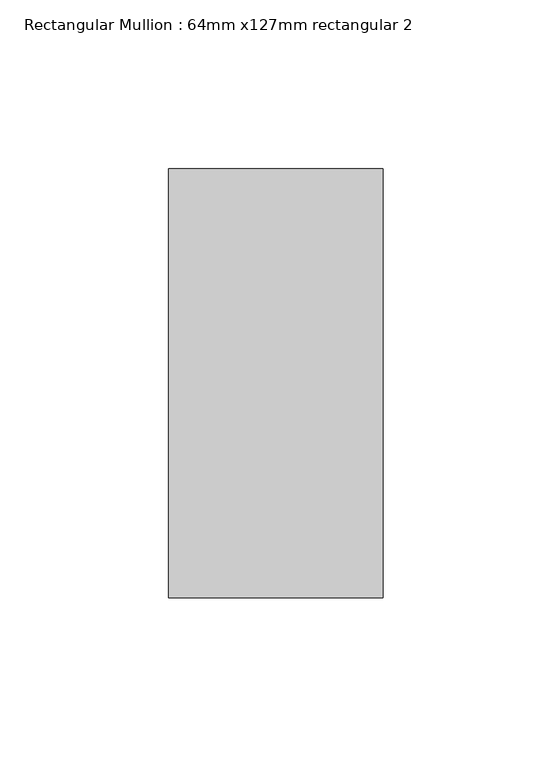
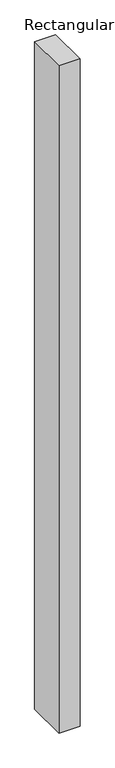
"""IFC4 building model written with IfcOpenShell, lengths in millimetres: member geometry, Rectangular Mullion : 64mm x127mm rectangular 2."""

import ifcopenshell
import ifcopenshell.guid

model = None  # the IFC model being written
_history = None  # IfcOwnerHistory: only IFC2X3 demands one
_inside = {}  # id of a spatial element -> (the spatial element, [elements in it])
_under = {}  # id of a project, library or spatial element -> (it, [spatial elements below it])
_declared = {}  # id of a project -> (the project, [libraries it declares])
_typed = {}  # id of a type object -> (the type object, [elements of that type])
_made_of = {}  # id of a material, layer set ... -> (it, [elements and type objects made of it])


def new_model(schema):
    """Start an empty IFC model of exactly this schema.

    Asked for "IFC4X3", IfcOpenShell would pick the latest addendum, in which some entities
    have other attributes; the version numbers below select the first issue.
    IFC2X3 requires an IfcOwnerHistory on every rooted entity: one is made here for all.
    """
    global model, _history
    if schema == "IFC4X3":
        model = ifcopenshell.file(schema_version=(4, 3, 0, 0))
    else:
        model = ifcopenshell.file(schema=schema)
    _inside.clear()
    _under.clear()
    _declared.clear()
    _typed.clear()
    _made_of.clear()
    _history = None
    if model.schema == "IFC2X3":
        org = make("IfcOrganization", Name="unknown")
        user = make(
            "IfcPersonAndOrganization",
            ThePerson=make("IfcPerson", FamilyName="unknown"),
            TheOrganization=org,
        )
        app = make(
            "IfcApplication",
            ApplicationDeveloper=org,
            Version="unknown",
            ApplicationFullName="unknown",
            ApplicationIdentifier="unknown",
        )
        _history = make(
            "IfcOwnerHistory",
            OwningUser=user,
            OwningApplication=app,
            ChangeAction="ADDED",
            CreationDate=0,
        )
    return model


def make(cls, **values):
    """One entity of the class cls with the attributes given. An attribute that is None is left unset."""
    return model.create_entity(
        cls, **{name: value for name, value in values.items() if value is not None}
    )


def rooted(cls, **values):
    """An entity with a GlobalId (a new one), such as an element, a storey or a relation."""
    return make(cls, GlobalId=ifcopenshell.guid.new(), OwnerHistory=_history, **values)


def si_unit(unit_type, name, prefix=None):
    """IfcSIUnit, for example si_unit("LENGTHUNIT", "METRE", prefix="MILLI")."""
    return make("IfcSIUnit", UnitType=unit_type, Prefix=prefix, Name=name)


def assignment(units):
    """IfcUnitAssignment: the units of a project."""
    return None if units is None else make("IfcUnitAssignment", Units=units)


def point(xyz):
    """IfcCartesianPoint."""
    return None if xyz is None else make("IfcCartesianPoint", Coordinates=xyz)


def direction(xyz):
    """IfcDirection."""
    return None if xyz is None else make("IfcDirection", DirectionRatios=xyz)


def frame(location, z_axis=None, x_axis=None):
    """IfcAxis2Placement3D, a coordinate frame: its origin and axes. An axis left out is left unset."""
    return make(
        "IfcAxis2Placement3D",
        Location=point(location),
        Axis=direction(z_axis),
        RefDirection=direction(x_axis),
    )


def origin():
    """The frame at (0, 0, 0) with its axes left unset."""
    return frame((0.0, 0.0, 0.0))


def place(relative_to, where):
    """IfcLocalPlacement: puts the frame where relative to a parent placement (None: the world)."""
    return make(
        "IfcLocalPlacement", PlacementRelTo=relative_to, RelativePlacement=where
    )


def context(
    kind, dimensions, precision=None, world=None, true_north=None, identifier=None
):
    """IfcGeometricRepresentationContext, for example the 3D "Model" context."""
    return make(
        "IfcGeometricRepresentationContext",
        ContextIdentifier=identifier,
        ContextType=kind,
        CoordinateSpaceDimension=dimensions,
        Precision=precision,
        WorldCoordinateSystem=world,
        TrueNorth=true_north,
    )


def project(units=None, contexts=None):
    """IfcProject with its units and contexts."""
    return rooted(
        "IfcProject",
        Name="project",
        RepresentationContexts=contexts,
        UnitsInContext=assignment(units),
    )


def spatial(cls, under=None, at=None, **own):
    """A site, building, storey or space (cls), placed at a placement, below another one or the project."""
    s = rooted(cls, ObjectPlacement=at, **own)
    if under is not None:
        _under.setdefault(under.id(), (under, []))[1].append(s)
    return s


def polyline(points):
    """IfcPolyline through the points."""
    return make("IfcPolyline", Points=[point(p) for p in points])


def outline(outer, holes=None, kind="AREA"):
    """IfcArbitraryClosedProfileDef: a profile drawn as a closed curve; with holes, ...WithVoids."""
    if holes is None:
        return make("IfcArbitraryClosedProfileDef", ProfileType=kind, OuterCurve=outer)
    return make(
        "IfcArbitraryProfileDefWithVoids",
        ProfileType=kind,
        OuterCurve=outer,
        InnerCurves=holes,
    )


def extrude(swept, where, along, depth):
    """IfcExtrudedAreaSolid: the profile swept, set in the frame where, extruded along a direction by depth."""
    return make(
        "IfcExtrudedAreaSolid",
        SweptArea=swept,
        Position=where,
        ExtrudedDirection=direction(along),
        Depth=depth,
    )


def shape(context_of_items, identifier, shape_type, items):
    """IfcShapeRepresentation: the items that make up one representation, for example the "Body"."""
    return make(
        "IfcShapeRepresentation",
        ContextOfItems=context_of_items,
        RepresentationIdentifier=identifier,
        RepresentationType=shape_type,
        Items=items,
    )


def source(mapping_origin, context_of_items, identifier, shape_type, items):
    """IfcRepresentationMap: a shape defined once, which mapped items show again and again."""
    return make(
        "IfcRepresentationMap",
        MappingOrigin=mapping_origin,
        MappedRepresentation=shape(context_of_items, identifier, shape_type, items),
    )


def transform(
    local_origin,
    x_axis=None,
    y_axis=None,
    z_axis=None,
    scale=None,
    scale2=None,
    scale3=None,
    uniform=True,
):
    """IfcCartesianTransformationOperator3D, or its non-uniform kind. x_axis, y_axis, z_axis: its Axis1, 2, 3."""
    if uniform:
        return make(
            "IfcCartesianTransformationOperator3D",
            Axis1=direction(x_axis),
            Axis2=direction(y_axis),
            LocalOrigin=point(local_origin),
            Scale=scale,
            Axis3=direction(z_axis),
        )
    return make(
        "IfcCartesianTransformationOperator3DnonUniform",
        Axis1=direction(x_axis),
        Axis2=direction(y_axis),
        LocalOrigin=point(local_origin),
        Scale=scale,
        Axis3=direction(z_axis),
        Scale2=scale2,
        Scale3=scale3,
    )


def mapped(mapping_source, mapping_target):
    """IfcMappedItem: shows the shape of a source again, moved by a transform."""
    return make(
        "IfcMappedItem", MappingSource=mapping_source, MappingTarget=mapping_target
    )


def made_of(thing, what):
    """Note that an element or type object is made of a material, layer set ...; save() writes the relation."""
    if what is not None:
        _made_of.setdefault(what.id(), (what, []))[1].append(thing)
    return thing


def element(
    cls,
    number,
    at=None,
    inside=None,
    cuts=None,
    type_object=None,
    material=None,
    context=None,
    identifier="Body",
    shape_type=None,
    held_by="IfcProductDefinitionShape",
    body=None,
    shapes=None,
    **own,
):
    """One element of the class cls, such as IfcWall. Its Tag is "e" and its number.

    at: its placement. inside: the storey or other place that contains it. cuts: it is an
    opening in that element (IfcRelVoidsElement). A single representation is given by context,
    identifier, shape_type and body (its items); several are given by shapes. held_by: the class
    of the entity that holds the representations. save() writes the other relations.
    """
    e = rooted(cls, Tag="e%d" % number, ObjectPlacement=at, **own)
    if body is not None:
        shapes = [shape(context, identifier, shape_type, body)]
    if shapes is not None:
        e.Representation = make(held_by, Representations=shapes)
    if inside is not None:
        _inside.setdefault(inside.id(), (inside, []))[1].append(e)
    if cuts is not None:
        rooted(
            "IfcRelVoidsElement", RelatingBuildingElement=cuts, RelatedOpeningElement=e
        )
    if type_object is not None:
        _typed.setdefault(type_object.id(), (type_object, []))[1].append(e)
    return made_of(e, material)


def aggregate(whole, parts):
    """IfcRelAggregates: a whole, such as a stair, and the parts it consists of."""
    return rooted("IfcRelAggregates", RelatingObject=whole, RelatedObjects=parts)


def save(model, path):
    """Write the relations noted so far, then the file.

    IfcRelAggregates (storeys below a building ...), IfcRelContainedInSpatialStructure (elements
    in a storey), IfcRelDefinesByType, IfcRelAssociatesMaterial and IfcRelDeclares: one each for
    every whole, place, type object, material and project.
    """
    for whole, parts in _under.values():
        aggregate(whole, parts)
    for where, things in _inside.values():
        rooted(
            "IfcRelContainedInSpatialStructure",
            RelatedElements=things,
            RelatingStructure=where,
        )
    for kind, things in _typed.values():
        rooted("IfcRelDefinesByType", RelatedObjects=things, RelatingType=kind)
    for what, things in _made_of.values():
        rooted("IfcRelAssociatesMaterial", RelatedObjects=things, RelatingMaterial=what)
    for by, libraries in _declared.values():
        rooted("IfcRelDeclares", RelatingContext=by, RelatedDefinitions=libraries)
    model.write(path)


def rectangular_mullion_64mm_x127mm_rectangular_2_3374d9b6(model_context):
    return source(origin(), model_context, "Body", "SweptSolid", [
        extrude(outline(polyline([(0.0, 63.5), (0.0, -63.5), (-63.5, -63.5), (-63.5, 63.5), (0.0, 63.5)])), frame((0.0, 0.0, -2133.6), z_axis=(0.0, 0.0, 1.0), x_axis=(1.0, 0.0, 0.0)), (0.0, 0.0, 1.0), 2133.6),
    ])


if __name__ == "__main__":
    model = new_model("IFC4")
    model_context = context("Model", 3, world=origin())
    ifc_project = project(units=[si_unit("LENGTHUNIT", "METRE", prefix="MILLI")], contexts=[model_context])
    site = spatial("IfcSite", under=ifc_project)
    building = spatial("IfcBuilding", under=site)
    placement = place(None, origin())
    rectangular_mullion_64mm_x127mm_rectangular_2_shape = rectangular_mullion_64mm_x127mm_rectangular_2_3374d9b6(model_context)
    element("IfcMember", 1, ObjectType="Rectangular Mullion : 64mm x127mm rectangular 2", at=placement, inside=building, context=model_context, shape_type="MappedRepresentation", body=[
        mapped(rectangular_mullion_64mm_x127mm_rectangular_2_shape, transform((0.0, 0.0, 0.0), x_axis=(1.0, 0.0, 0.0), y_axis=(0.0, 1.0, 0.0), z_axis=(0.0, 0.0, 1.0))),
    ])
    save(model, "model.ifc")
